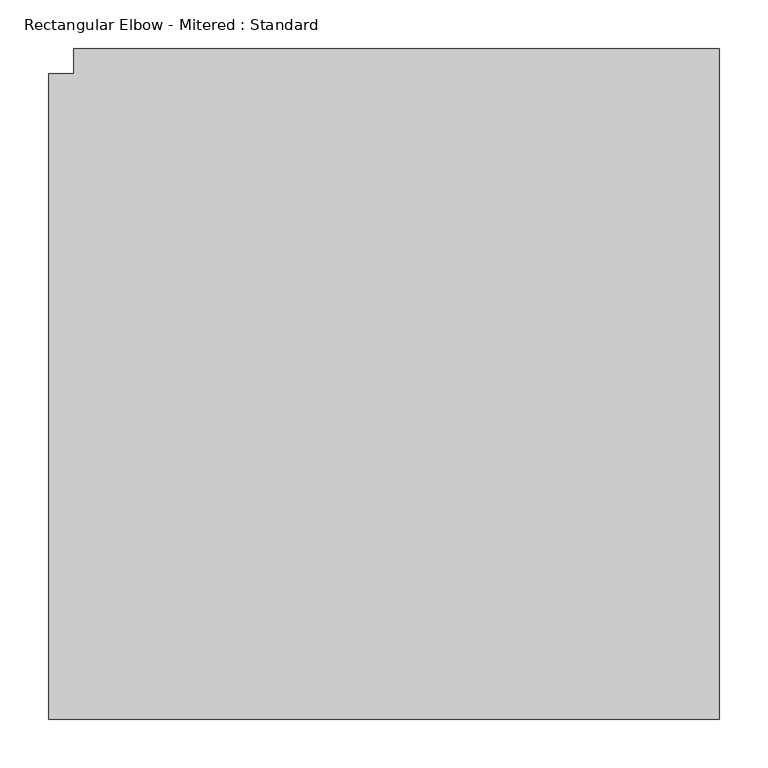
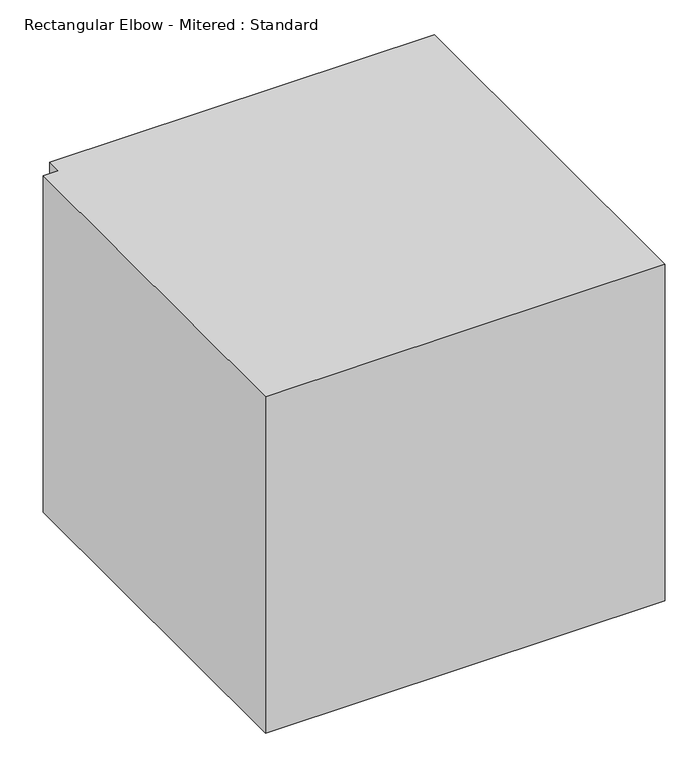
"""IFC4 building model written with IfcOpenShell, lengths in millimetres: duct fitting geometry, Rectangular Elbow - Mitered : Standard."""

from ifc_helpers import new_model, si_unit, frame, origin, place, context, project, spatial, polyline, outline, extrude, source, transform, mapped, element, save


def rectangular_elbow_mitered_standard_7a6b55a4(model_context):
    return source(origin(), model_context, "Body", "SweptSolid", [
        extrude(outline(polyline([(-355.4, -330.0), (-355.4, 330.0), (-330.0, 330.0), (-330.0, 355.4), (330.0, 355.4), (330.0, -330.0), (-355.4, -330.0)])), frame((0.0, 0.0, -305.0), z_axis=(0.0, 0.0, 1.0), x_axis=(1.0, 0.0, 0.0)), (0.0, 0.0, 1.0), 610.0),
    ])


if __name__ == "__main__":
    model = new_model("IFC4")
    model_context = context("Model", 3, world=origin())
    ifc_project = project(units=[si_unit("LENGTHUNIT", "METRE", prefix="MILLI")], contexts=[model_context])
    site = spatial("IfcSite", under=ifc_project)
    building = spatial("IfcBuilding", under=site)
    placement = place(None, origin())
    rectangular_elbow_mitered_standard_shape = rectangular_elbow_mitered_standard_7a6b55a4(model_context)
    element("IfcDuctFitting", 1, ObjectType="Rectangular Elbow - Mitered : Standard", at=placement, inside=building, context=model_context, shape_type="MappedRepresentation", body=[
        mapped(rectangular_elbow_mitered_standard_shape, transform((0.0, 0.0, 0.0), x_axis=(1.0, 0.0, 0.0), y_axis=(0.0, 1.0, 0.0), z_axis=(0.0, 0.0, 1.0))),
    ])
    save(model, "model.ifc")
